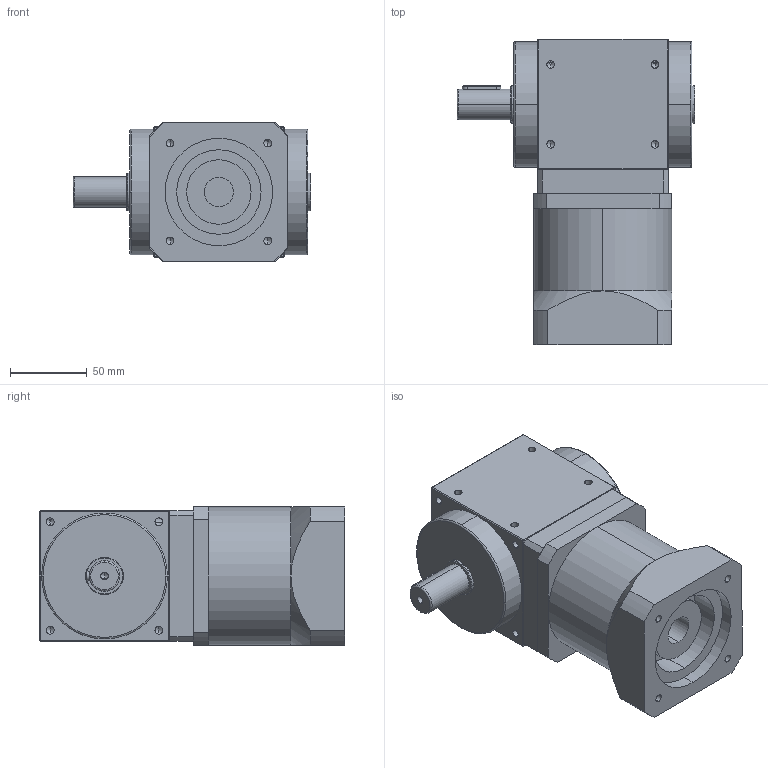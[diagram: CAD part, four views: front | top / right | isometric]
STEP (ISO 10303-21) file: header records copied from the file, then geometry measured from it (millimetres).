
FILE_DESCRIPTION (( 'STEP AP214' ), '1' );
FILE_NAME ('PAW085A-L1-P(3-10) 19-70-90-M6.STEP', '2020-12-05T02:49:56', ( '微软用户' ), ( '微软中国' ), 'SwSTEP 2.0', 'SolidWorks 2014', '' );
FILE_SCHEMA (( 'AUTOMOTIVE_DESIGN' ));
Length unit declared in the file: millimetre
Products named in the file (2): PAW085A-L1-P(3-10) 19-70-90-M6
Bounding box: 155 x 199 x 90 mm (x, y, z)
Volume: 1517683.1 mm3; surface area: 122053.7 mm2
Topology: 2 solids, 3 shells, 230 faces, 542 edges, 311 vertices
Faces by surface type: cylinder 90, plane 69, cone 65, torus 6
Entity records: 9198 total; most frequent: CARTESIAN_POINT 1415, DIRECTION 1164, ORIENTED_EDGE 1012, EDGE_CURVE 506, AXIS2_PLACEMENT_3D 460, VERTEX_POINT 311, EDGE_LOOP 267, VECTOR 244
